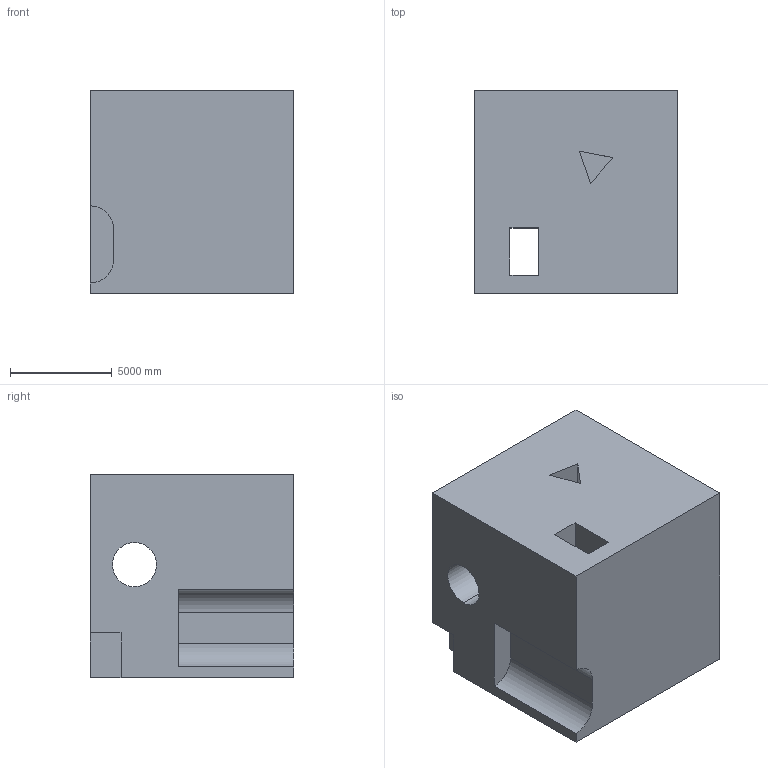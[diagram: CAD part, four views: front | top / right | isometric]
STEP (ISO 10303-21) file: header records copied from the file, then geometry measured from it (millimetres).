
FILE_DESCRIPTION (( 'STEP AP203' ), '1' );
FILE_NAME ('551.STEP', '2022-07-29T11:46:47', ( 'user' ), ( '' ), 'SwSTEP 2.0', 'SolidWorks 2021', '' );
FILE_SCHEMA (( 'CONFIG_CONTROL_DESIGN' ));
Length unit declared in the file: centimetre
Products named in the file (1): 551
Bounding box: 10000 x 10000 x 10000 mm (x, y, z)
Volume: 893053594979.5 mm3; surface area: 741125738.3 mm2
Topology: 1 solids, 1 shells, 25 faces, 66 edges, 44 vertices
Faces by surface type: plane 20, cylinder 5
Entity records: 855 total; most frequent: CARTESIAN_POINT 136, ORIENTED_EDGE 132, DIRECTION 128, EDGE_CURVE 66, VECTOR 56, LINE 56, VERTEX_POINT 44, AXIS2_PLACEMENT_3D 36
